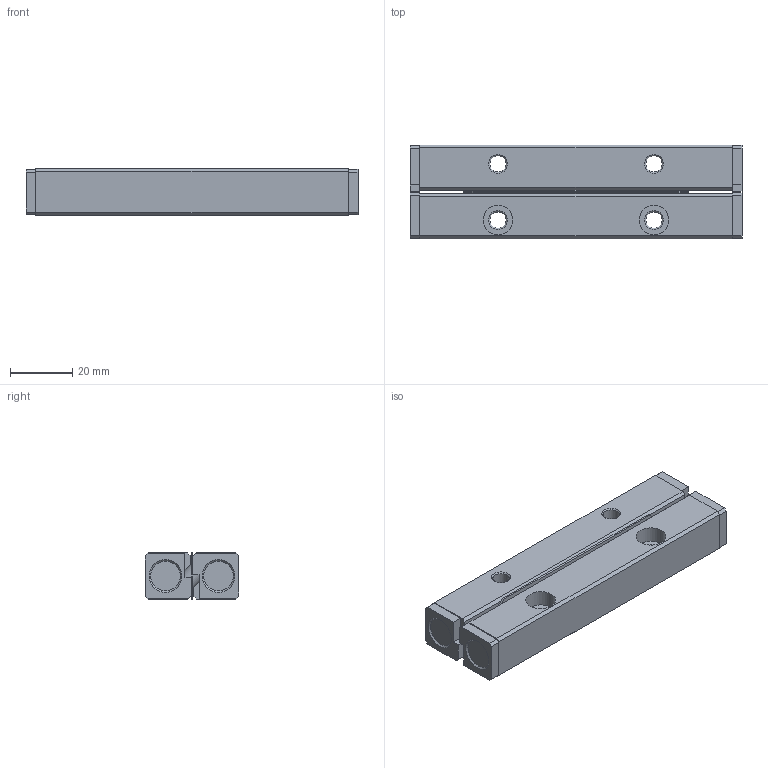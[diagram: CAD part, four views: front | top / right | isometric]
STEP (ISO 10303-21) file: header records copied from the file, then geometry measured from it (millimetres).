
FILE_DESCRIPTION(/* description */ ('STEP AP214'),/* implementation_level */ '2;1');
FILE_NAME(/* name */ 'VR6-100HX7Z(0)',/* time_stamp */ '2024-09-19T10:00:15+02:00',/* author */ ('License CC BY-ND 4.0'),/* organization */ ('CADENAS'),/* preprocessor_version */ 'ST-DEVELOPER v19.3',/* originating_system */ 'PARTsolutions',/* authorisation */ ' ');
FILE_SCHEMA (('AUTOMOTIVE_DESIGN {1 0 10303 214 3 1 1}'));
Length unit declared in the file: millimetre
Products named in the file (4): VR6-100HX7Z(0); VR6-100*7Z Roller guide; VR6-100*7Z Roller cage; VR6-100*7Z Roller guide; Top
Assembly tree (3 placements, depth 2):
  VR6-100HX7Z(0)
    VR6-100*7Z Roller guide
    VR6-100*7Z Roller cage
    VR6-100*7Z Roller guide; Top
Bounding box: 106.4 x 30 x 15 mm (x, y, z)
Volume: 41841 mm3; surface area: 17388.3 mm2
Topology: 3 solids, 3 shells, 185 faces, 483 edges, 312 vertices
Faces by surface type: plane 144, cone 26, cylinder 15
Full cylindrical faces by diameter (mm): 5.2 x4, 6 x7, 9.5 x4
Entity records: 5573 total; most frequent: CARTESIAN_POINT 943, DIRECTION 908, ORIENTED_EDGE 884, EDGE_CURVE 442, LINE 354, VECTOR 354, VERTEX_POINT 312, AXIS2_PLACEMENT_3D 277
